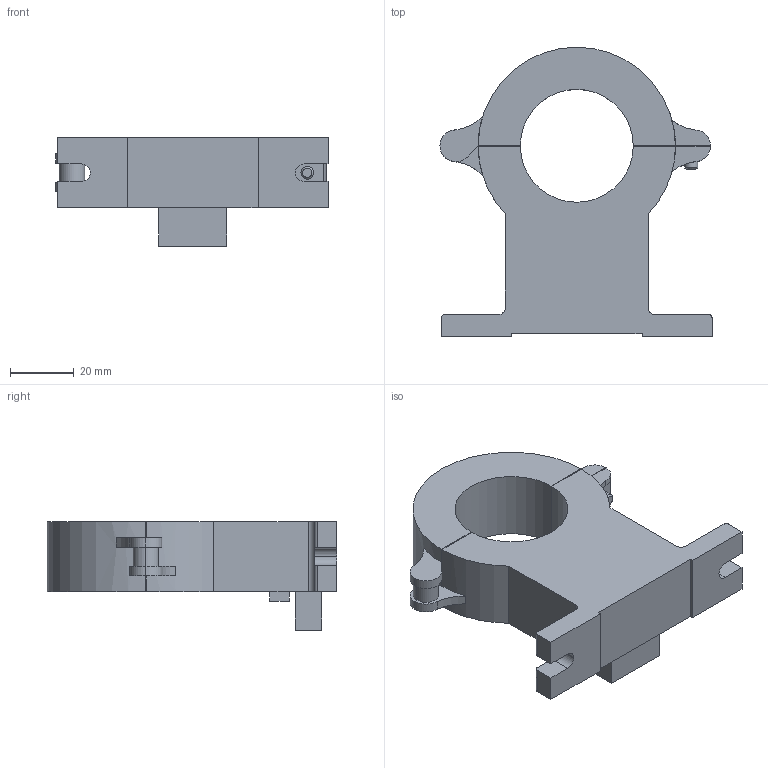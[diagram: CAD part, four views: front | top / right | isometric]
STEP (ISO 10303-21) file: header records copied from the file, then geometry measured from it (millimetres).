
FILE_DESCRIPTION(('FreeCAD Model'),'2;1');
FILE_NAME('Open CASCADE Shape Model','2023-05-29T11:59:03',('Author'),( ''),'Open CASCADE STEP processor 7.5','FreeCAD','Unknown');
FILE_SCHEMA(('AUTOMOTIVE_DESIGN { 1 0 10303 214 1 1 1 1 }'));
Length unit declared in the file: millimetre
Products named in the file (1): SHo10V35
Bounding box: 85.5 x 91 x 34.1 mm (x, y, z)
Volume: 83838 mm3; surface area: 21714.6 mm2
Topology: 1 solids, 1 shells, 142 faces, 385 edges, 256 vertices
Faces by surface type: plane 95, cylinder 43, cone 4
Entity records: 10763 total; most frequent: CARTESIAN_POINT 2008, DIRECTION 1482, LINE 927, VECTOR 927, ORIENTED_EDGE 770, PCURVE 770, DEFINITIONAL_REPRESENTATION 770, EDGE_CURVE 385
